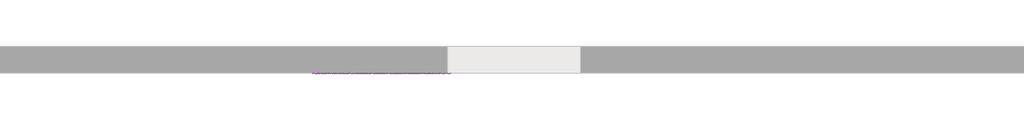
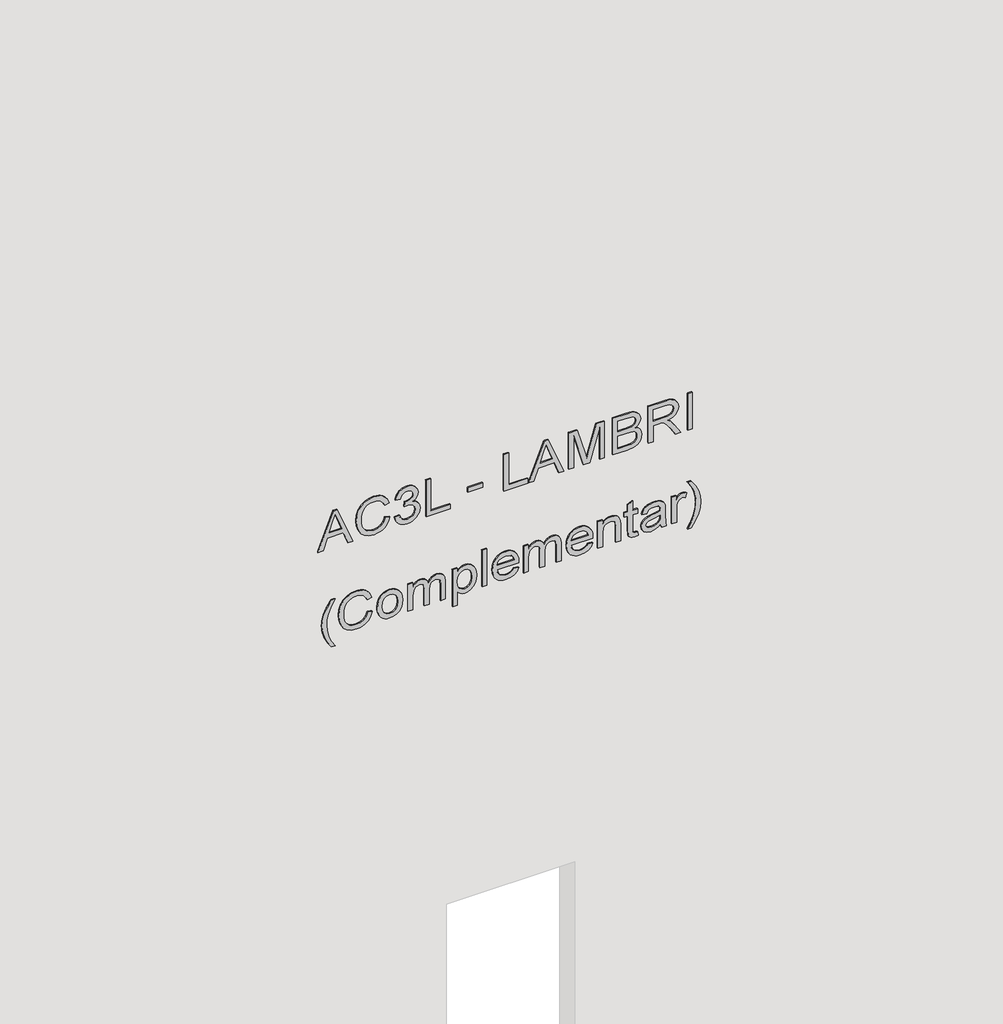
# One storey, part 7 of 11: 1 proxy.
"""IFC4 building model written with IfcOpenShell, lengths in millimetres."""

import ifcopenshell
import ifcopenshell.guid

model = None  # the IFC model being written
_history = None  # IfcOwnerHistory: only IFC2X3 demands one
_inside = {}  # id of a spatial element -> (the spatial element, [elements in it])
_under = {}  # id of a project, library or spatial element -> (it, [spatial elements below it])
_declared = {}  # id of a project -> (the project, [libraries it declares])
_typed = {}  # id of a type object -> (the type object, [elements of that type])
_made_of = {}  # id of a material, layer set ... -> (it, [elements and type objects made of it])


def new_model(schema):
    """Start an empty IFC model of exactly this schema.

    Asked for "IFC4X3", IfcOpenShell would pick the latest addendum, in which some entities
    have other attributes; the version numbers below select the first issue.
    IFC2X3 requires an IfcOwnerHistory on every rooted entity: one is made here for all.
    """
    global model, _history
    if schema == "IFC4X3":
        model = ifcopenshell.file(schema_version=(4, 3, 0, 0))
    else:
        model = ifcopenshell.file(schema=schema)
    _inside.clear()
    _under.clear()
    _declared.clear()
    _typed.clear()
    _made_of.clear()
    _history = None
    if model.schema == "IFC2X3":
        org = make("IfcOrganization", Name="unknown")
        user = make(
            "IfcPersonAndOrganization",
            ThePerson=make("IfcPerson", FamilyName="unknown"),
            TheOrganization=org,
        )
        app = make(
            "IfcApplication",
            ApplicationDeveloper=org,
            Version="unknown",
            ApplicationFullName="unknown",
            ApplicationIdentifier="unknown",
        )
        _history = make(
            "IfcOwnerHistory",
            OwningUser=user,
            OwningApplication=app,
            ChangeAction="ADDED",
            CreationDate=0,
        )
    return model


def make(cls, **values):
    """One entity of the class cls with the attributes given. An attribute that is None is left unset."""
    return model.create_entity(
        cls, **{name: value for name, value in values.items() if value is not None}
    )


def rooted(cls, **values):
    """An entity with a GlobalId (a new one), such as an element, a storey or a relation."""
    return make(cls, GlobalId=ifcopenshell.guid.new(), OwnerHistory=_history, **values)


def si_unit(unit_type, name, prefix=None):
    """IfcSIUnit, for example si_unit("LENGTHUNIT", "METRE", prefix="MILLI")."""
    return make("IfcSIUnit", UnitType=unit_type, Prefix=prefix, Name=name)


def assignment(units):
    """IfcUnitAssignment: the units of a project."""
    return None if units is None else make("IfcUnitAssignment", Units=units)


def point(xyz):
    """IfcCartesianPoint."""
    return None if xyz is None else make("IfcCartesianPoint", Coordinates=xyz)


def direction(xyz):
    """IfcDirection."""
    return None if xyz is None else make("IfcDirection", DirectionRatios=xyz)


def frame(location, z_axis=None, x_axis=None):
    """IfcAxis2Placement3D, a coordinate frame: its origin and axes. An axis left out is left unset."""
    return make(
        "IfcAxis2Placement3D",
        Location=point(location),
        Axis=direction(z_axis),
        RefDirection=direction(x_axis),
    )


def origin():
    """The frame at (0, 0, 0) with its axes left unset."""
    return frame((0.0, 0.0, 0.0))


def place(relative_to, where):
    """IfcLocalPlacement: puts the frame where relative to a parent placement (None: the world)."""
    return make(
        "IfcLocalPlacement", PlacementRelTo=relative_to, RelativePlacement=where
    )


def context(
    kind, dimensions, precision=None, world=None, true_north=None, identifier=None
):
    """IfcGeometricRepresentationContext, for example the 3D "Model" context."""
    return make(
        "IfcGeometricRepresentationContext",
        ContextIdentifier=identifier,
        ContextType=kind,
        CoordinateSpaceDimension=dimensions,
        Precision=precision,
        WorldCoordinateSystem=world,
        TrueNorth=true_north,
    )


def project(units=None, contexts=None):
    """IfcProject with its units and contexts."""
    return rooted(
        "IfcProject",
        Name="project",
        RepresentationContexts=contexts,
        UnitsInContext=assignment(units),
    )


def spatial(cls, under=None, at=None, **own):
    """A site, building, storey or space (cls), placed at a placement, below another one or the project."""
    s = rooted(cls, ObjectPlacement=at, **own)
    if under is not None:
        _under.setdefault(under.id(), (under, []))[1].append(s)
    return s


def polyline(points):
    """IfcPolyline through the points."""
    return make("IfcPolyline", Points=[point(p) for p in points])


def outline(outer, holes=None, kind="AREA"):
    """IfcArbitraryClosedProfileDef: a profile drawn as a closed curve; with holes, ...WithVoids."""
    if holes is None:
        return make("IfcArbitraryClosedProfileDef", ProfileType=kind, OuterCurve=outer)
    return make(
        "IfcArbitraryProfileDefWithVoids",
        ProfileType=kind,
        OuterCurve=outer,
        InnerCurves=holes,
    )


def extrude(swept, where, along, depth):
    """IfcExtrudedAreaSolid: the profile swept, set in the frame where, extruded along a direction by depth."""
    return make(
        "IfcExtrudedAreaSolid",
        SweptArea=swept,
        Position=where,
        ExtrudedDirection=direction(along),
        Depth=depth,
    )


def shape(context_of_items, identifier, shape_type, items):
    """IfcShapeRepresentation: the items that make up one representation, for example the "Body"."""
    return make(
        "IfcShapeRepresentation",
        ContextOfItems=context_of_items,
        RepresentationIdentifier=identifier,
        RepresentationType=shape_type,
        Items=items,
    )


def made_of(thing, what):
    """Note that an element or type object is made of a material, layer set ...; save() writes the relation."""
    if what is not None:
        _made_of.setdefault(what.id(), (what, []))[1].append(thing)
    return thing


def element(
    cls,
    number,
    at=None,
    inside=None,
    cuts=None,
    type_object=None,
    material=None,
    context=None,
    identifier="Body",
    shape_type=None,
    held_by="IfcProductDefinitionShape",
    body=None,
    shapes=None,
    **own,
):
    """One element of the class cls, such as IfcWall. Its Tag is "e" and its number.

    at: its placement. inside: the storey or other place that contains it. cuts: it is an
    opening in that element (IfcRelVoidsElement). A single representation is given by context,
    identifier, shape_type and body (its items); several are given by shapes. held_by: the class
    of the entity that holds the representations. save() writes the other relations.
    """
    e = rooted(cls, Tag="e%d" % number, ObjectPlacement=at, **own)
    if body is not None:
        shapes = [shape(context, identifier, shape_type, body)]
    if shapes is not None:
        e.Representation = make(held_by, Representations=shapes)
    if inside is not None:
        _inside.setdefault(inside.id(), (inside, []))[1].append(e)
    if cuts is not None:
        rooted(
            "IfcRelVoidsElement", RelatingBuildingElement=cuts, RelatedOpeningElement=e
        )
    if type_object is not None:
        _typed.setdefault(type_object.id(), (type_object, []))[1].append(e)
    return made_of(e, material)


def aggregate(whole, parts):
    """IfcRelAggregates: a whole, such as a stair, and the parts it consists of."""
    return rooted("IfcRelAggregates", RelatingObject=whole, RelatedObjects=parts)


def save(model, path):
    """Write the relations noted so far, then the file.

    IfcRelAggregates (storeys below a building ...), IfcRelContainedInSpatialStructure (elements
    in a storey), IfcRelDefinesByType, IfcRelAssociatesMaterial and IfcRelDeclares: one each for
    every whole, place, type object, material and project.
    """
    for whole, parts in _under.values():
        aggregate(whole, parts)
    for where, things in _inside.values():
        rooted(
            "IfcRelContainedInSpatialStructure",
            RelatedElements=things,
            RelatingStructure=where,
        )
    for kind, things in _typed.values():
        rooted("IfcRelDefinesByType", RelatedObjects=things, RelatingType=kind)
    for what, things in _made_of.values():
        rooted("IfcRelAssociatesMaterial", RelatedObjects=things, RelatingMaterial=what)
    for by, libraries in _declared.values():
        rooted("IfcRelDeclares", RelatingContext=by, RelatedDefinitions=libraries)
    model.write(path)


model = new_model("IFC4")

# Units and contexts
model_context = context("Model", 3, world=origin())
ifc_project = project(units=[si_unit("LENGTHUNIT", "METRE", prefix="MILLI")], contexts=[model_context])

# Site, building, storey
site = spatial("IfcSite", under=ifc_project)
building = spatial("IfcBuilding", under=site)
storey = spatial("IfcBuildingStorey", under=building, Name="01 - Marelli - Planta Baixa - Painéis Lambri", Elevation=0.0)

# Proxy
placement = place(None, origin())
element("IfcBuildingElementProxy", 1, Name="300mm Arial", ObjectType="300mm Arial", at=placement, inside=storey, context=model_context, shape_type="SweptSolid", body=[
    extrude(outline(polyline([(5965.9244535, 37363.6853623), (5965.9244535, 37403.4901942), (6060.1022443, 37437.923949), (6060.1022443, 37562.0473341), (5965.9244535, 37596.5546653), (5965.9244535, 37636.3594972), (6267.293384, 37516.0620847), (6267.293384, 37483.9827748), (5965.9244535, 37363.6853623)]), holes=[polyline([(6097.7733606, 37451.756312), (6178.3395176, 37481.260448), (6229.6222677, 37500.0224297), (6171.8647944, 37521.1388563), (6097.7733606, 37548.2885475), (6097.7733606, 37451.756312)])]), frame((0.0, 8778.3159498, 0.0), z_axis=(0.0, 1.0, 0.0), x_axis=(0.0, 0.0, 1.0)), (0.0, 0.0, 1.0), 10.0),
    extrude(outline(polyline([(6073.0516905, 37888.5058167), (6040.7884396, 37876.3197256), (6017.5750857, 37856.5368713), (6003.5587816, 37830.3344762), (5998.8866803, 37798.8897626), (6002.3171799, 37771.9148153), (6012.6086787, 37746.9080367), (6029.8347531, 37726.0491276), (6054.0689796, 37711.5177888), (6084.1617268, 37702.9921235), (6118.9633635, 37700.1502351), (6147.3822477, 37702.5506651), (6174.9550032, 37709.7519552), (6199.3455795, 37722.8761454), (6218.2179258, 37743.0452758), (6230.3028494, 37769.6247499), (6234.3311572, 37801.9799714), (6230.6983225, 37830.0493676), (6219.7998184, 37852.8948395), (6200.9550632, 37870.7371163), (6173.4834752, 37883.7969271), (6182.4597959, 37921.4680434), (6220.278065, 37904.8305802), (6235.6003501, 37893.0284659), (6248.5314022, 37878.9040966), (6258.7999084, 37862.7241866), (6266.1345557, 37844.7554504), (6272.0022735, 37803.4514994), (6267.4681279, 37765.5964421), (6253.8656912, 37731.0523227), (6231.526057, 37701.9252658), (6200.7803193, 37680.3213956), (6162.8332915, 37666.939688), (6118.8897871, 37662.4791188), (6077.2271512, 37666.4246532), (6038.3236302, 37678.2612564), (6005.2326447, 37697.6486376), (5981.0076153, 37724.2465058), (5966.1635768, 37758.946975), (5961.215564, 37802.642159), (5962.8503396, 37825.0645666), (5967.7546665, 37845.6843524), (5975.9285445, 37864.5015165), (5987.3719739, 37881.5160587), (6001.9286046, 37896.3922869), (6019.4420868, 37908.7945087), (6039.9124206, 37918.722724), (6063.3396059, 37926.176933), (6073.0516905, 37888.5058167)])), frame((0.0, 8778.3159498, 0.0), z_axis=(0.0, 1.0, 0.0), x_axis=(0.0, 0.0, 1.0)), (0.0, 0.0, 1.0), 10.0),
    extrude(outline(polyline([(6045.9755757, 37963.8480493), (6028.0827151, 37967.0992064), (6011.928097, 37973.1738578), (5997.5117213, 37982.0720036), (5984.8335881, 37993.7936437), (5974.5007025, 38007.7731595), (5967.12007, 38023.4449325), (5962.6916905, 38040.8089627), (5961.215564, 38059.86525), (5962.9446094, 38080.9494869), (5968.1317455, 38100.1299344), (5976.7769724, 38117.4065926), (5988.88029, 38132.7794615), (6003.4668111, 38145.3978139), (6019.5616484, 38154.4109228), (6037.1648019, 38159.8187881), (6056.2762716, 38161.6214099), (6083.2420218, 38158.0161663), (6105.2781533, 38147.2004357), (6121.5017493, 38129.7260409), (6131.029893, 38106.144805), (6141.9008059, 38124.0974464), (6155.9722922, 38137.0468926), (6172.4901938, 38144.8827791), (6190.7003526, 38147.4947413), (6210.2440836, 38144.7448233), (6228.7025627, 38136.4950696), (6244.7238236, 38123.0489827), (6256.9558999, 38104.7100652), (6264.709013, 38082.9590423), (6267.293384, 38059.2766388), (6262.0510656, 38026.3879884), (6246.3241103, 37999.38545), (6221.0690113, 37979.648581), (6187.2422618, 37968.5569388), (6182.5333723, 38006.2280551), (6203.134764, 38012.9051133), (6217.8500438, 38024.6957313), (6226.6792117, 38040.8457509), (6229.6222677, 38060.601014), (6226.7068029, 38080.3194889), (6217.9604084, 38096.0648383), (6204.7626419, 38106.3839283), (6188.4930606, 38109.823625), (6168.9585267, 38105.0779472), (6155.2365283, 38090.840914), (6147.1247303, 38070.6625866), (6144.4207976, 38048.0930262), (6144.862256, 38042.0597614), (6107.1911397, 38037.8659067), (6111.311418, 38064.279834), (6107.4578541, 38087.9714344), (6095.8971624, 38107.1012982), (6078.4503588, 38119.7380447), (6056.9384591, 38123.9502936), (6034.2769282, 38119.7012565), (6015.5885229, 38106.9541454), (6003.0621409, 38087.0149413), (5998.8866803, 38061.1896252), (6001.9217068, 38039.1810848), (6011.0267861, 38022.3044983), (6027.0112588, 38009.9528603), (6050.6844652, 38001.5191656), (6045.9755757, 37963.8480493)])), frame((0.0, 8778.3159498, 0.0), z_axis=(0.0, 1.0, 0.0), x_axis=(0.0, 0.0, 1.0)), (0.0, 0.0, 1.0), 10.0),
    extrude(outline(polyline([(5965.9244535, 38208.7103053), (5965.9244535, 38397.0658868), (6003.5955698, 38397.0658868), (6003.5955698, 38246.3814216), (6267.293384, 38246.3814216), (6267.293384, 38208.7103053), (5965.9244535, 38208.7103053)])), frame((0.0, 8778.3159498, 0.0), z_axis=(0.0, 1.0, 0.0), x_axis=(0.0, 0.0, 1.0)), (0.0, 0.0, 1.0), 10.0),
    extrude(outline(polyline([(38651.3459219, 8778.3159498), (38533.6236834, 8778.3159498), (38533.6236834, 8788.3159498), (38651.3459219, 8788.3159498), (38651.3459219, 8778.3159498)])), frame((0.0, 0.0, 6055.3933548), z_axis=(0.0, 0.0, 1.0), x_axis=(1.0, 0.0, 0.0)), (0.0, 0.0, 1.0), 37.6711163),
    extrude(outline(polyline([(5965.9244535, 38816.1570557), (5965.9244535, 39004.5126372), (6003.5955698, 39004.5126372), (6003.5955698, 38853.828172), (6267.293384, 38853.828172), (6267.293384, 38816.1570557), (5965.9244535, 38816.1570557)])), frame((0.0, 8778.3159498, 0.0), z_axis=(0.0, 1.0, 0.0), x_axis=(0.0, 0.0, 1.0)), (0.0, 0.0, 1.0), 10.0),
    extrude(outline(polyline([(5965.9244535, 39011.7967007), (5965.9244535, 39051.6015326), (6060.1022443, 39086.0352874), (6060.1022443, 39210.1586725), (5965.9244535, 39244.6660037), (5965.9244535, 39284.4708356), (6267.293384, 39164.1734231), (6267.293384, 39132.0941132), (5965.9244535, 39011.7967007)]), holes=[polyline([(6097.7733606, 39099.8676504), (6178.3395176, 39129.3717864), (6229.6222677, 39148.1337681), (6171.8647944, 39169.2501947), (6097.7733606, 39196.3998859), (6097.7733606, 39099.8676504)])]), frame((0.0, 8778.3159498, 0.0), z_axis=(0.0, 1.0, 0.0), x_axis=(0.0, 0.0, 1.0)), (0.0, 0.0, 1.0), 10.0),
    extrude(outline(polyline([(5965.9244535, 39324.7171258), (5965.9244535, 39362.3882421), (6229.6222677, 39362.3882421), (5965.9244535, 39438.0983567), (5965.9244535, 39489.1603777), (6229.6222677, 39564.8704923), (5965.9244535, 39564.8704923), (5965.9244535, 39602.5416086), (6267.293384, 39602.5416086), (6267.293384, 39537.720801), (6058.5571399, 39477.0938482), (6010.5117514, 39463.6293672), (6054.87832, 39451.1949558), (6267.293384, 39389.5379334), (6267.293384, 39324.7171258), (5965.9244535, 39324.7171258)])), frame((0.0, 8778.3159498, 0.0), z_axis=(0.0, 1.0, 0.0), x_axis=(0.0, 0.0, 1.0)), (0.0, 0.0, 1.0), 10.0),
    extrude(outline(polyline([(5965.9244535, 39668.4660621), (5965.9244535, 39782.583057), (5971.1115897, 39830.885963), (5977.5311305, 39848.9213778), (5986.4154807, 39863.6642488), (5998.6843452, 39875.7031871), (6015.2574291, 39885.6268039), (6034.7459778, 39892.2762709), (6055.7612368, 39894.49276), (6080.9795475, 39891.2462013), (6102.6294029, 39881.5065255), (6119.5887629, 39865.733585), (6130.7355874, 39844.3872322), (6142.4802201, 39862.2571001), (6157.407032, 39874.958226), (6174.4675596, 39882.5457922), (6192.613339, 39885.0749809), (6212.3318139, 39882.0675456), (6231.1673721, 39873.0452396), (6247.1794359, 39858.7162359), (6258.4274279, 39839.7887073), (6265.076895, 39815.0946283), (6267.293384, 39783.4659738), (6267.293384, 39668.4660621), (5965.9244535, 39668.4660621)]), holes=[polyline([(6144.862256, 39706.1371784), (6229.6222677, 39706.1371784), (6229.6222677, 39769.7071872), (6225.6859303, 39818.1204578), (6220.084927, 39830.6100515), (6211.1545915, 39839.8254955), (6199.7134615, 39845.5092723), (6186.5800742, 39847.4038646), (6173.0512139, 39845.3713166), (6162.0423452, 39839.2736725), (6153.6822268, 39829.1661147), (6148.0996175, 39815.1038254), (6144.862256, 39774.9311115), (6144.862256, 39706.1371784)]), polyline([(6003.5955698, 39706.1371784), (6107.1911397, 39706.1371784), (6107.1911397, 39779.7135775), (6105.9311438, 39806.541372), (6102.1511563, 39826.2506499), (6095.262566, 39840.1657863), (6084.6767616, 39849.6111565), (6071.1387042, 39855.0190219), (6055.3933548, 39856.8216436), (6041.8369032, 39855.2857363), (6030.0094971, 39850.6780143), (6013.2708663, 39835.0062413), (6005.0670978, 39811.351429), (6003.5955698, 39783.3923974), (6003.5955698, 39706.1371784)])]), frame((0.0, 8778.3159498, 0.0), z_axis=(0.0, 1.0, 0.0), x_axis=(0.0, 0.0, 1.0)), (0.0, 0.0, 1.0), 10.0),
    extrude(outline(polyline([(5965.9244535, 39946.2905449), (5965.9244535, 39983.9616612), (6097.7733606, 39983.9616612), (6097.7733606, 40029.4318758), (6096.4489854, 40051.2840663), (6089.2752865, 40069.1999195), (6069.7407526, 40089.1023354), (6028.3908163, 40117.429249), (5965.9244535, 40156.6454697), (5965.9244535, 40200.4234271), (6047.5942565, 40150.1707466), (6086.3690188, 40119.636541), (6102.4822501, 40098.2258089), (6112.4702463, 40135.3359051), (6120.4854753, 40149.7177919), (6130.5148582, 40161.3175711), (6155.1261637, 40176.6306591), (6184.8142407, 40181.7350218), (6208.6805851, 40178.6540101), (6230.3948199, 40169.410975), (6247.9060028, 40155.0083948), (6259.1631919, 40136.4487482), (6265.260836, 40111.0556935), (6267.293384, 40076.1528892), (6267.293384, 39946.2905449), (5965.9244535, 39946.2905449)]), holes=[polyline([(6135.4444769, 39983.9616612), (6229.6222677, 39983.9616612), (6229.6222677, 40077.77157), (6226.366512, 40107.5792086), (6216.599245, 40128.1346151), (6201.7919947, 40140.0815829), (6183.4162891, 40144.0639055), (6170.1081579, 40141.9761752), (6157.8484904, 40135.7129842), (6147.7133415, 40125.4306824), (6140.7787658, 40111.2856197), (6136.7780491, 40092.4960468), (6135.4444769, 40068.2802145), (6135.4444769, 39983.9616612)])]), frame((0.0, 8778.3159498, 0.0), z_axis=(0.0, 1.0, 0.0), x_axis=(0.0, 0.0, 1.0)), (0.0, 0.0, 1.0), 10.0),
    extrude(outline(polyline([(40290.0394812, 8778.3159498), (40252.3683649, 8778.3159498), (40252.3683649, 8788.3159498), (40290.0394812, 8788.3159498), (40290.0394812, 8778.3159498)])), frame((0.0, 0.0, 5965.9244535), z_axis=(0.0, 0.0, 1.0), x_axis=(1.0, 0.0, 0.0)), (0.0, 0.0, 1.0), 301.3689304),
    extrude(outline(polyline([(5149.3155348, 37469.4146478), (5149.3155348, 37497.667985), (5197.5540614, 37468.8260366), (5245.8109821, 37448.2246448), (5294.0862969, 37435.8638098), (5342.3800058, 37431.7435314), (5380.2534572, 37434.1163703), (5417.9429677, 37441.2348869), (5475.7740173, 37462.4248898), (5535.4444769, 37497.667985), (5535.4444769, 37469.4146478), (5484.934279, 37434.7233756), (5434.2033518, 37410.4063757), (5389.4137189, 37398.1559053), (5342.600735, 37394.0724151), (5289.2210575, 37399.5354628), (5237.68079, 37415.9246057), (5190.2791949, 37440.2232114), (5149.3155348, 37469.4146478)])), frame((0.0, 8778.3159498, 0.0), z_axis=(0.0, 1.0, 0.0), x_axis=(0.0, 0.0, 1.0)), (0.0, 0.0, 1.0), 10.0),
    extrude(outline(polyline([(5341.2027835, 37751.94802), (5308.9395325, 37739.761929), (5285.7261786, 37719.9790747), (5271.7098746, 37693.7766796), (5267.0377732, 37662.331966), (5270.4682728, 37635.3570187), (5280.7597717, 37610.3502401), (5297.9858461, 37589.491331), (5322.2200725, 37574.9599922), (5352.3128197, 37566.4343269), (5387.1144565, 37563.5924385), (5415.5333406, 37565.9928685), (5443.1060961, 37573.1941586), (5467.4966724, 37586.3183488), (5486.3690188, 37606.4874792), (5498.4539423, 37633.0669533), (5502.4822501, 37665.4221748), (5498.8494154, 37693.491571), (5487.9509113, 37716.3370429), (5469.1061561, 37734.1793197), (5441.6345681, 37747.2391305), (5450.6108888, 37784.9102468), (5488.4291579, 37768.2727836), (5503.751443, 37756.4706693), (5516.6824952, 37742.3463), (5526.9510013, 37726.16639), (5534.2856486, 37708.1976538), (5540.1533665, 37666.8937028), (5535.6192209, 37629.0386455), (5522.0167841, 37594.4945261), (5499.6771499, 37565.3674691), (5468.9314122, 37543.763599), (5430.9843844, 37530.3818914), (5387.0408801, 37525.9213222), (5345.3782441, 37529.8668566), (5306.4747231, 37541.7034598), (5273.3837376, 37561.0908409), (5249.1587083, 37587.6887092), (5234.3146698, 37622.3891784), (5229.3666569, 37666.0843624), (5231.0014325, 37688.50677), (5235.9057594, 37709.1265558), (5244.0796375, 37727.9437199), (5255.5230668, 37744.9582621), (5270.0796975, 37759.8344903), (5287.5931797, 37772.2367121), (5308.0635135, 37782.1649274), (5331.4906988, 37789.6191364), (5341.2027835, 37751.94802)])), frame((0.0, 8778.3159498, 0.0), z_axis=(0.0, 1.0, 0.0), x_axis=(0.0, 0.0, 1.0)), (0.0, 0.0, 1.0), 10.0),
    extrude(outline(polyline([(5344.7344506, 37827.2902527), (5318.4124939, 37828.9986047), (5295.3646869, 37834.1236607), (5275.5910296, 37842.6654208), (5259.0915221, 37854.6238849), (5246.0868936, 37869.350661), (5236.7978732, 37886.1973571), (5231.224461, 37905.1639733), (5229.3666569, 37926.2505094), (5232.7419742, 37952.8391806), (5242.8679261, 37977.2757421), (5259.1007192, 37997.8495427), (5280.7965599, 38012.849931), (5309.767267, 38022.0101927), (5347.8246594, 38025.0636133), (5372.7049786, 38023.3368672), (5394.7388108, 38018.1566288), (5413.9261561, 38009.5228982), (5430.2670145, 37997.4356754), (5443.3199275, 37982.6261259), (5452.6434368, 37965.825415), (5458.2375424, 37947.0335428), (5460.1022443, 37926.2505094), (5458.5709355, 37907.4241483), (5453.9770091, 37890.0877092), (5446.3204651, 37874.2411923), (5435.6013034, 37859.8845974), (5418.830483, 37845.6245716), (5398.095734, 37835.4388389), (5373.3970566, 37829.3273992), (5344.7344506, 37827.2902527)]), holes=[polyline([(5344.808027, 37864.961369), (5378.8830968, 37869.3207706), (5403.1173232, 37882.3989755), (5417.6026768, 37902.0806623), (5422.431128, 37926.2505094), (5417.5842827, 37950.1720361), (5403.0437468, 37969.8445258), (5379.0854319, 37983.0055042), (5345.9852494, 37987.392497), (5311.1468245, 37983.0330953), (5286.535519, 37969.9548904), (5271.9122097, 37950.3099918), (5267.0377732, 37926.2505094), (5271.8846185, 37902.0806623), (5286.4251544, 37882.3989755), (5310.7145631, 37869.3207706), (5344.808027, 37864.961369)])]), frame((0.0, 8778.3159498, 0.0), z_axis=(0.0, 1.0, 0.0), x_axis=(0.0, 0.0, 1.0)), (0.0, 0.0, 1.0), 10.0),
    extrude(outline(polyline([(5234.0755465, 38067.4436191), (5234.0755465, 38105.1147354), (5345.6909438, 38105.1147354), (5371.6082304, 38106.5494752), (5390.6461236, 38110.8536945), (5404.368122, 38118.3584872), (5414.3377241, 38129.3949471), (5420.407777, 38142.7674576), (5422.431128, 38157.2804023), (5419.3961015, 38174.359324), (5410.2910222, 38185.8648334), (5395.0974958, 38192.4039358), (5373.7971282, 38194.5836366), (5234.0755465, 38194.5836366), (5234.0755465, 38232.2547529), (5359.008272, 38232.2547529), (5387.7214617, 38235.94277), (5407.3479662, 38247.006821), (5418.6603375, 38263.6442842), (5422.431128, 38284.0525379), (5420.9596, 38295.6132296), (5416.5450161, 38305.5736346), (5409.7300021, 38313.3175506), (5401.0571841, 38318.2287752), (5369.6032735, 38321.7236542), (5234.0755465, 38321.7236542), (5234.0755465, 38359.3947705), (5385.7900813, 38359.3947705), (5418.7615051, 38355.0813541), (5441.8920855, 38342.1411049), (5455.5497046, 38321.1994223), (5460.1022443, 38292.8817058), (5457.366122, 38273.3563689), (5449.1577549, 38255.7624124), (5435.4771432, 38240.0998365), (5416.3242869, 38226.368641), (5434.7643719, 38218.1648725), (5448.5875379, 38205.6200965), (5457.2235677, 38188.8262834), (5460.1022443, 38167.8754038), (5457.27875, 38148.3224757), (5448.808267, 38131.0136279), (5435.702471, 38116.4455009), (5418.9730372, 38105.1147354), (5455.3933548, 38105.1147354), (5455.3933548, 38067.4436191), (5234.0755465, 38067.4436191)])), frame((0.0, 8778.3159498, 0.0), z_axis=(0.0, 1.0, 0.0), x_axis=(0.0, 0.0, 1.0)), (0.0, 0.0, 1.0), 10.0),
    extrude(outline(polyline([(5149.3155348, 38415.9014449), (5149.3155348, 38453.5725612), (5263.5061061, 38453.5725612), (5249.9956398, 38464.213548), (5239.0419534, 38477.4481027), (5231.785481, 38492.9083436), (5229.3666569, 38510.2263885), (5232.9810975, 38534.6445559), (5243.8244193, 38557.8671069), (5261.4459669, 38577.806311), (5285.3950848, 38592.374438), (5314.2094421, 38601.2863794), (5346.4267078, 38604.2570265), (5376.7217901, 38601.6266702), (5404.4784866, 38593.7356014), (5427.9861461, 38580.6757906), (5445.5341173, 38562.5392082), (5456.4602125, 38540.2639534), (5460.1022443, 38514.7881252), (5457.4994792, 38495.6582615), (5449.6911838, 38479.6186065), (5436.6773583, 38465.8598199), (5418.4580024, 38453.5725612), (5455.3933548, 38453.5725612), (5455.3933548, 38415.9014449), (5149.3155348, 38415.9014449)]), holes=[polyline([(5342.968617, 38453.5725612), (5377.1356573, 38457.9227658), (5402.0872537, 38470.9733796), (5417.3451594, 38489.670982), (5422.431128, 38510.9621525), (5417.6486621, 38532.1705495), (5403.3012642, 38550.1783732), (5379.3521464, 38562.4840259), (5345.7645202, 38566.5859102), (5310.7237602, 38562.3828584), (5286.2412134, 38549.773703), (5271.8386333, 38531.2784357), (5267.0377732, 38509.4170481), (5271.6730864, 38487.9051484), (5285.5790258, 38469.8697336), (5309.1970499, 38457.6468543), (5342.968617, 38453.5725612)])]), frame((0.0, 8778.3159498, 0.0), z_axis=(0.0, 1.0, 0.0), x_axis=(0.0, 0.0, 1.0)), (0.0, 0.0, 1.0), 10.0),
    extrude(outline(polyline([(38684.3081486, 8778.3159498), (38646.6370323, 8778.3159498), (38646.6370323, 8788.3159498), (38684.3081486, 8788.3159498), (38684.3081486, 8778.3159498)])), frame((0.0, 0.0, 5234.0755465), z_axis=(0.0, 0.0, 1.0), x_axis=(1.0, 0.0, 0.0)), (0.0, 0.0, 1.0), 301.3689304),
    extrude(outline(polyline([(5300.0, 38895.7667195), (5285.1191733, 38885.2085062), (5274.9104479, 38871.4865078), (5269.0059419, 38854.6007242), (5267.0377732, 38834.5511555), (5271.2868103, 38807.8889079), (5284.0339214, 38786.0275203), (5304.7640718, 38770.8799791), (5332.9622268, 38764.3592708), (5332.9622268, 38933.658565), (5343.1157698, 38933.8792942), (5369.3687487, 38932.0927672), (5392.5039277, 38926.7331864), (5412.5213067, 38917.8005517), (5429.4208859, 38905.2948631), (5442.8439802, 38889.9748773), (5452.4319047, 38872.5993508), (5458.1846594, 38853.1682837), (5460.1022443, 38831.6816759), (5458.1800609, 38809.4799975), (5452.4135106, 38789.4488228), (5442.8025935, 38771.588152), (5429.3473095, 38755.8979849), (5412.4109422, 38743.1186841), (5392.3567749, 38733.9906121), (5369.1848077, 38728.5137689), (5342.8950406, 38726.6881545), (5317.467497, 38728.4953748), (5295.0427901, 38733.9170357), (5275.62092, 38742.9531372), (5259.2018867, 38755.6036793), (5246.1489737, 38771.3352331), (5236.8254644, 38789.6143697), (5231.2313588, 38810.4410892), (5229.3666569, 38833.8153915), (5233.6892704, 38869.4723538), (5246.6571107, 38898.1579524), (5267.4608375, 38919.3939406), (5295.2911105, 38932.7020718), (5300.0, 38895.7667195)]), holes=[polyline([(5370.6333431, 38764.3592708), (5391.8693312, 38770.5488853), (5408.3412476, 38785.1446035), (5418.9086579, 38806.1414684), (5422.431128, 38831.5345231), (5418.0165441, 38859.1624609), (5404.7727922, 38881.125016), (5390.535759, 38891.1130122), (5370.6333431, 38896.2081778), (5370.6333431, 38764.3592708)])]), frame((0.0, 8778.3159498, 0.0), z_axis=(0.0, 1.0, 0.0), x_axis=(0.0, 0.0, 1.0)), (0.0, 0.0, 1.0), 10.0),
    extrude(outline(polyline([(5234.0755465, 38971.5504105), (5234.0755465, 39009.2215268), (5345.6909438, 39009.2215268), (5371.6082304, 39010.6562665), (5390.6461236, 39014.9604859), (5404.368122, 39022.4652786), (5414.3377241, 39033.5017384), (5420.407777, 39046.874249), (5422.431128, 39061.3871937), (5419.3961015, 39078.4661153), (5410.2910222, 39089.9716247), (5395.0974958, 39096.5107272), (5373.7971282, 39098.690428), (5234.0755465, 39098.690428), (5234.0755465, 39136.3615443), (5359.008272, 39136.3615443), (5387.7214617, 39140.0495613), (5407.3479662, 39151.1136123), (5418.6603375, 39167.7510755), (5422.431128, 39188.1593292), (5420.9596, 39199.7200209), (5416.5450161, 39209.6804259), (5409.7300021, 39217.4243419), (5401.0571841, 39222.3355666), (5369.6032735, 39225.8304455), (5234.0755465, 39225.8304455), (5234.0755465, 39263.5015618), (5385.7900813, 39263.5015618), (5418.7615051, 39259.1881454), (5441.8920855, 39246.2478963), (5455.5497046, 39225.3062137), (5460.1022443, 39196.9884971), (5457.366122, 39177.4631602), (5449.1577549, 39159.8692038), (5435.4771432, 39144.2066278), (5416.3242869, 39130.4754324), (5434.7643719, 39122.2716639), (5448.5875379, 39109.7268878), (5457.2235677, 39092.9330748), (5460.1022443, 39071.9821951), (5457.27875, 39052.4292671), (5448.808267, 39035.1204192), (5435.702471, 39020.5522922), (5418.9730372, 39009.2215268), (5455.3933548, 39009.2215268), (5455.3933548, 38971.5504105), (5234.0755465, 38971.5504105)])), frame((0.0, 8778.3159498, 0.0), z_axis=(0.0, 1.0, 0.0), x_axis=(0.0, 0.0, 1.0)), (0.0, 0.0, 1.0), 10.0),
    extrude(outline(polyline([(5300.0, 39474.9601327), (5285.1191733, 39464.4019194), (5274.9104479, 39450.679921), (5269.0059419, 39433.7941374), (5267.0377732, 39413.7445687), (5271.2868103, 39387.0823211), (5284.0339214, 39365.2209335), (5304.7640718, 39350.0733923), (5332.9622268, 39343.552684), (5332.9622268, 39512.8519782), (5343.1157698, 39513.0727074), (5369.3687487, 39511.2861804), (5392.5039277, 39505.9265996), (5412.5213067, 39496.9939649), (5429.4208859, 39484.4882763), (5442.8439802, 39469.1682905), (5452.4319047, 39451.792764), (5458.1846594, 39432.3616969), (5460.1022443, 39410.8750891), (5458.1800609, 39388.6734107), (5452.4135106, 39368.6422361), (5442.8025935, 39350.7815652), (5429.3473095, 39335.0913981), (5412.4109422, 39322.3120973), (5392.3567749, 39313.1840253), (5369.1848077, 39307.7071821), (5342.8950406, 39305.8815677), (5317.467497, 39307.688788), (5295.0427901, 39313.1104489), (5275.62092, 39322.1465504), (5259.2018867, 39334.7970925), (5246.1489737, 39350.5286463), (5236.8254644, 39368.8077829), (5231.2313588, 39389.6345024), (5229.3666569, 39413.0088047), (5233.6892704, 39448.6657671), (5246.6571107, 39477.3513656), (5267.4608375, 39498.5873538), (5295.2911105, 39511.895485), (5300.0, 39474.9601327)]), holes=[polyline([(5370.6333431, 39343.552684), (5391.8693312, 39349.7422985), (5408.3412476, 39364.3380167), (5418.9086579, 39385.3348816), (5422.431128, 39410.7279363), (5418.0165441, 39438.3558741), (5404.7727922, 39460.3184292), (5390.535759, 39470.3064254), (5370.6333431, 39475.4015911), (5370.6333431, 39343.552684)])]), frame((0.0, 8778.3159498, 0.0), z_axis=(0.0, 1.0, 0.0), x_axis=(0.0, 0.0, 1.0)), (0.0, 0.0, 1.0), 10.0),
    extrude(outline(polyline([(5234.0755465, 39550.7438237), (5234.0755465, 39588.41494), (5351.5034793, 39588.41494), (5386.2131456, 39592.7099623), (5398.5877762, 39598.0787401), (5407.6422718, 39605.5950291), (5418.7339139, 39624.4029961), (5422.431128, 39646.4667188), (5420.7848561, 39660.3634612), (5415.8460403, 39672.3288231), (5408.1481095, 39681.6638287), (5398.2244927, 39687.6695023), (5364.8943839, 39692.0105098), (5234.0755465, 39692.0105098), (5234.0755465, 39729.6816261), (5369.9711555, 39729.6816261), (5406.391473, 39727.6950633), (5434.0929872, 39716.4010861), (5444.6328064, 39706.3027253), (5452.9285454, 39692.1208744), (5458.3088196, 39675.1155292), (5460.1022443, 39656.5466855), (5457.8765582, 39635.5682147), (5451.1995, 39617.2201002), (5440.0710697, 39601.5023419), (5424.4912672, 39588.41494), (5455.3933548, 39588.41494), (5455.3933548, 39550.7438237), (5234.0755465, 39550.7438237)])), frame((0.0, 8778.3159498, 0.0), z_axis=(0.0, 1.0, 0.0), x_axis=(0.0, 0.0, 1.0)), (0.0, 0.0, 1.0), 10.0),
    extrude(outline(polyline([(5265.4926689, 39861.5305332), (5267.0377732, 39845.1229962), (5269.576159, 39832.2839146), (5276.4555523, 39825.8459797), (5295.8797217, 39823.8594169), (5417.7222385, 39823.8594169), (5417.7222385, 39861.5305332), (5455.3933548, 39861.5305332), (5455.3933548, 39823.8594169), (5531.3241986, 39823.8594169), (5509.1777025, 39786.1883006), (5455.3933548, 39786.1883006), (5455.3933548, 39757.9349633), (5417.7222385, 39757.9349633), (5417.7222385, 39786.1883006), (5294.7760757, 39786.1883006), (5267.7919313, 39787.3287348), (5252.0281878, 39790.7500373), (5242.849532, 39796.967243), (5235.6206508, 39806.4953867), (5230.9301554, 39819.9782618), (5229.3666569, 39838.0596619), (5232.9719005, 39866.2394227), (5265.4926689, 39861.5305332)])), frame((0.0, 8778.3159498, 0.0), z_axis=(0.0, 1.0, 0.0), x_axis=(0.0, 0.0, 1.0)), (0.0, 0.0, 1.0), 10.0),
    extrude(outline(polyline([(5262.3288837, 40040.4683356), (5234.0755465, 40049.8861147), (5234.0755465, 40087.557231), (5265.7501862, 40080.0524383), (5331.1963932, 40078.1394519), (5378.0645594, 40078.1394519), (5411.0267861, 40076.300042), (5425.1442577, 40071.7566993), (5436.5945848, 40064.7485473), (5445.856014, 40054.181137), (5453.406792, 40038.9600195), (5458.4283812, 40018.772495), (5460.1022443, 39993.3058639), (5458.207652, 39966.7539809), (5452.5238752, 39943.6050063), (5443.3452194, 39924.6774777), (5430.9659903, 39910.7899323), (5414.7791825, 39901.0318624), (5394.1777908, 39894.49276), (5389.4689012, 39932.1638763), (5405.1314772, 39939.6502749), (5415.1838527, 39950.3372468), (5420.6193092, 39966.0090198), (5422.431128, 39988.4498215), (5419.7088012, 40012.693245), (5411.5418209, 40030.0940634), (5400.5421493, 40037.8747676), (5383.7299421, 40040.4683356), (5375.3422326, 40040.2476064), (5368.3524747, 40013.429009), (5362.3927864, 39974.9117641), (5356.7274037, 39942.3174193), (5344.3665686, 39915.9402803), (5334.8752131, 39905.3360818), (5322.7351073, 39896.9943575), (5308.5532564, 39891.5864922), (5292.9366657, 39889.7838704), (5267.6079903, 39894.5571393), (5247.2457219, 39908.876946), (5233.8364232, 39932.0994969), (5229.3666569, 39963.5809987), (5231.224461, 39984.4491048), (5236.7978732, 40003.9376535), (5246.896234, 40022.469709), (5262.3288837, 40040.4683356)]), holes=[polyline([(5337.6711163, 40040.4683356), (5327.0025384, 40040.2476064), (5310.0799667, 40038.7576844), (5297.8662844, 40034.2879181), (5286.0112871, 40024.2079515), (5276.0508821, 40009.7134008), (5269.2910505, 39991.8343359), (5267.0377732, 39971.6008261), (5269.0795183, 39952.5169476), (5275.2047535, 39938.6753876), (5284.3834093, 39930.2600869), (5295.5854161, 39927.4549867), (5310.0799667, 39932.6053347), (5320.0127805, 39947.2838263), (5326.1196217, 39979.69423), (5337.6711163, 40040.4683356)])]), frame((0.0, 8778.3159498, 0.0), z_axis=(0.0, 1.0, 0.0), x_axis=(0.0, 0.0, 1.0)), (0.0, 0.0, 1.0), 10.0),
    extrude(outline(polyline([(5234.0755465, 40129.9372369), (5234.0755465, 40167.6083532), (5350.3998333, 40167.6083532), (5373.3556698, 40169.1350635), (5394.39852, 40173.7151943), (5406.1339556, 40179.1690449), (5414.9999117, 40187.2900399), (5420.5733239, 40197.3424154), (5422.431128, 40208.5904074), (5420.4997475, 40221.8341593), (5414.7056061, 40235.0779111), (5448.4771733, 40247.6594753), (5457.1959765, 40228.603188), (5460.1022443, 40209.8412062), (5458.2812284, 40197.5539476), (5452.8181808, 40186.2967585), (5441.6345681, 40175.0763577), (5422.6518572, 40162.8994636), (5455.3933548, 40162.8994636), (5455.3933548, 40129.9372369), (5234.0755465, 40129.9372369)])), frame((0.0, 8778.3159498, 0.0), z_axis=(0.0, 1.0, 0.0), x_axis=(0.0, 0.0, 1.0)), (0.0, 0.0, 1.0), 10.0),
    extrude(outline(polyline([(5149.3155348, 40280.6217021), (5190.2791949, 40309.6751827), (5237.68079, 40334.0013796), (5289.2210575, 40350.4732959), (5342.600735, 40355.9639347), (5389.4137189, 40351.8804446), (5434.2033518, 40339.6299741), (5484.934279, 40315.3129742), (5535.4444769, 40280.6217021), (5535.4444769, 40252.3683649), (5475.1854061, 40287.8321892), (5446.8400984, 40299.8067481), (5417.2807801, 40308.8014629), (5379.9775458, 40315.9199795), (5342.3800058, 40318.2928184), (5294.0862969, 40314.1725401), (5245.8109821, 40301.811705), (5197.5540614, 40281.2103133), (5149.3155348, 40252.3683649), (5149.3155348, 40280.6217021)])), frame((0.0, 8778.3159498, 0.0), z_axis=(0.0, 1.0, 0.0), x_axis=(0.0, 0.0, 1.0)), (0.0, 0.0, 1.0), 10.0),
])

save(model, "model.ifc")
